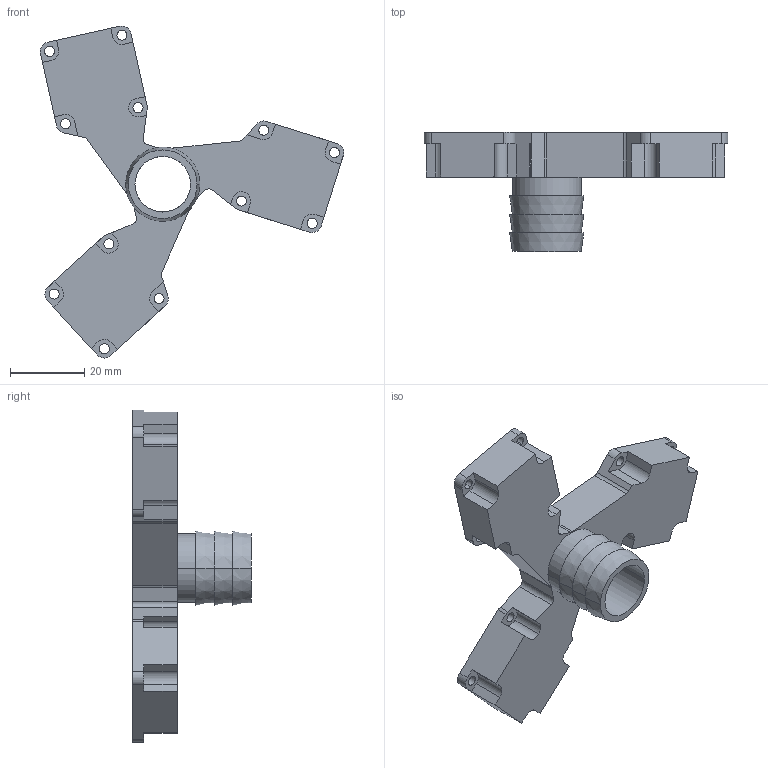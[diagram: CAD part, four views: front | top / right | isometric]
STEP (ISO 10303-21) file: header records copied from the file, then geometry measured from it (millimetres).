
FILE_DESCRIPTION(/* description */ ('VariCAD 2010-1.04 AP-203'),/* implementation_level */ '2;1');
FILE_NAME(/* name */ '0353-13-15',/* time_stamp */ '2010-02-02T17:35:01-07:00',/* author */ (''),/* organization */ (''),/* preprocessor_version */ 'ST-DEVELOPER v12',/* originating_system */ 'VariCAD 2010-1.04; kernel version (20090520)',/* authorisation */ '');
FILE_SCHEMA (('CONFIG_CONTROL_DESIGN'));
Length unit declared in the file: millimetre
Products named in the file (1): Part
Bounding box: 81.82 x 32 x 89.51 mm (x, y, z)
Volume: 15166.9 mm3; surface area: 14885.9 mm2
Topology: 1 solids, 1 shells, 192 faces, 550 edges, 364 vertices
Faces by surface type: cylinder 93, plane 93, cone 6
Entity records: 6433 total; most frequent: DIRECTION 1143, CARTESIAN_POINT 1108, ORIENTED_EDGE 1100, EDGE_CURVE 550, AXIS2_PLACEMENT_3D 399, VERTEX_POINT 364, LINE 345, VECTOR 345
